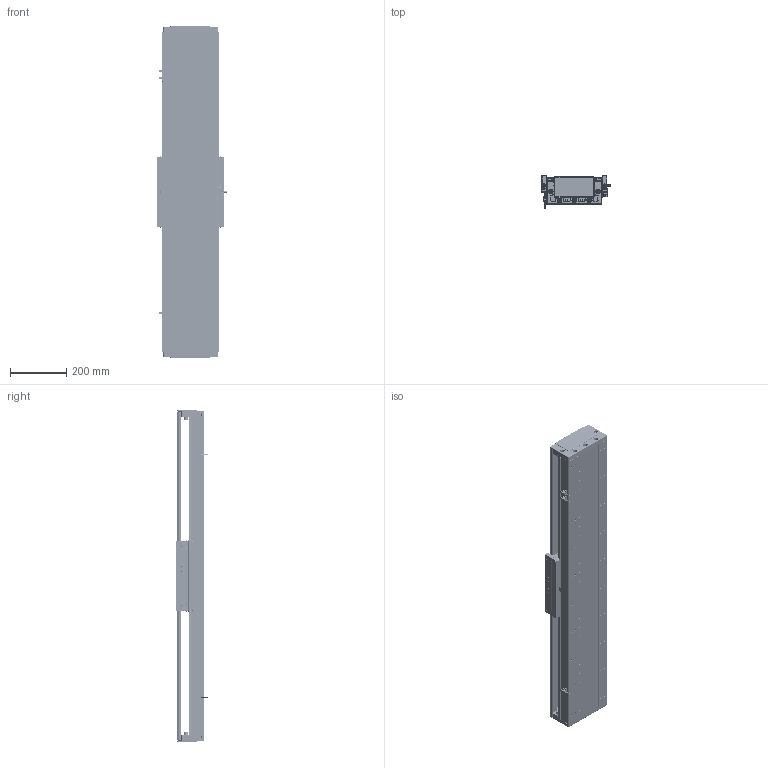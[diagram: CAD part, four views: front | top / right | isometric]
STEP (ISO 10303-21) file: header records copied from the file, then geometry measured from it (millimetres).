
FILE_DESCRIPTION (( 'STEP AP203' ), '1' );
FILE_NAME ('DA-C195-C3-T840-C010-0.2 眻盄萇儂.STEP', '2025-08-15T01:41:41', ( '' ), ( '' ), 'SwSTEP 2.0', 'SolidWorks 2019', '' );
FILE_SCHEMA (( 'CONFIG_CONTROL_DESIGN' ));
Length unit declared in the file: millimetre
Products named in the file (12): DA-C195-C3-T840-C010-0.2 眻盄萇儂; 葩璃 DA95-GT-T-00; MS200 棠掑喜S315-T240; CU195-C3賑輸-俋楷; LMT黍杅芛; PM-T45ㄗ侂狟ㄘ; IU-CU195-L-00 菁釱(L1140); IU-CU195-L 菁釱絳寢; DA95-HXJ-00 遣喳砎蝶; 66156-0001-003-00 裔啣; DA165-GYP-00 光电感应片(默认); DA195-DG-H-00  端盖（压铸镂空版）
Assembly tree (20 placements, depth 3):
  DA-C195-C3-T840-C010-0.2 眻盄萇儂
    IU-CU195-L 菁釱絳寢
      IU-CU195-L-00 菁釱(L1140)
      葩璃 DA95-GT-T-00  x4
    LMT黍杅芛
    MS200 棠掑喜S315-T240
    PM-T45ㄗ侂狟ㄘ  x3
    DA165-GYP-00 光电感应片(默认)
    DA195-DG-H-00  端盖（压铸镂空版）  x2
    DA95-HXJ-00 遣喳砎蝶  x4
    66156-0001-003-00 裔啣
    CU195-C3賑輸-俋楷
Bounding box: 248 x 115.6 x 1180 mm (x, y, z)
Volume: 8676398 mm3; surface area: 2450519.9 mm2
Topology: 78 solids, 118 shells, 5197 faces, 13360 edges, 8131 vertices
Faces by surface type: cylinder 2264, plane 1599, bspline 710, cone 544, torus 44, sphere 36
Entity records: 144265 total; most frequent: CARTESIAN_POINT 44913, ORIENTED_EDGE 20806, DIRECTION 19918, EDGE_CURVE 10403, AXIS2_PLACEMENT_3D 7407, VERTEX_POINT 6561, VECTOR 5104, LINE 5104
